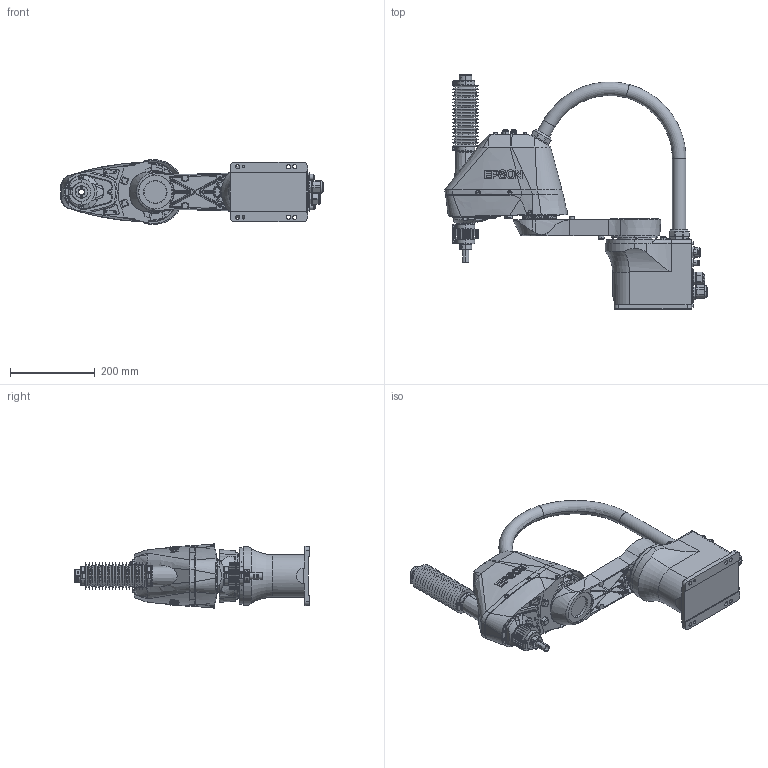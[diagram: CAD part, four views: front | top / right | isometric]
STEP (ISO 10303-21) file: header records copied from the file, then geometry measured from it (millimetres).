
FILE_DESCRIPTION (( 'STEP AP214' ), '1' );
FILE_NAME ('LS4-x401C.STEP', '2026-07-16T00:25:38', ( '' ), ( '' ), 'SwSTEP 2.0', 'SolidWorks 2020', '' );
FILE_SCHEMA (( 'AUTOMOTIVE_DESIGN' ));
Length unit declared in the file: millimetre
Products named in the file (7): LS4-C401C_HOUSING; LS4-C_BELLOWS1; LS4-C_BELLOWS2; LS4-C401C_ARM; LS4-C401C_BOX; LS4-C401C_Z_AXIS; LS4-x401C
Assembly tree (6 placements, depth 2):
  LS4-x401C
    LS4-C401C_BOX
    LS4-C401C_ARM
    LS4-C401C_HOUSING
    LS4-C401C_Z_AXIS
    LS4-C_BELLOWS1
    LS4-C_BELLOWS2
Bounding box: 620.85 x 554 x 151.95 mm (x, y, z)
Volume: 4464633.1 mm3; surface area: 859618.4 mm2
Topology: 5 solids, 8 shells, 3151 faces, 7976 edges, 5103 vertices
Faces by surface type: cylinder 1158, plane 1097, cone 543, torus 233, bspline 80, sphere 40
Entity records: 130834 total; most frequent: CARTESIAN_POINT 49972, ORIENTED_EDGE 15888, DIRECTION 11835, EDGE_CURVE 7948, VERTEX_POINT 5103, AXIS2_PLACEMENT_3D 4991, B_SPLINE_CURVE_WITH_KNOTS 4185, EDGE_LOOP 3479
